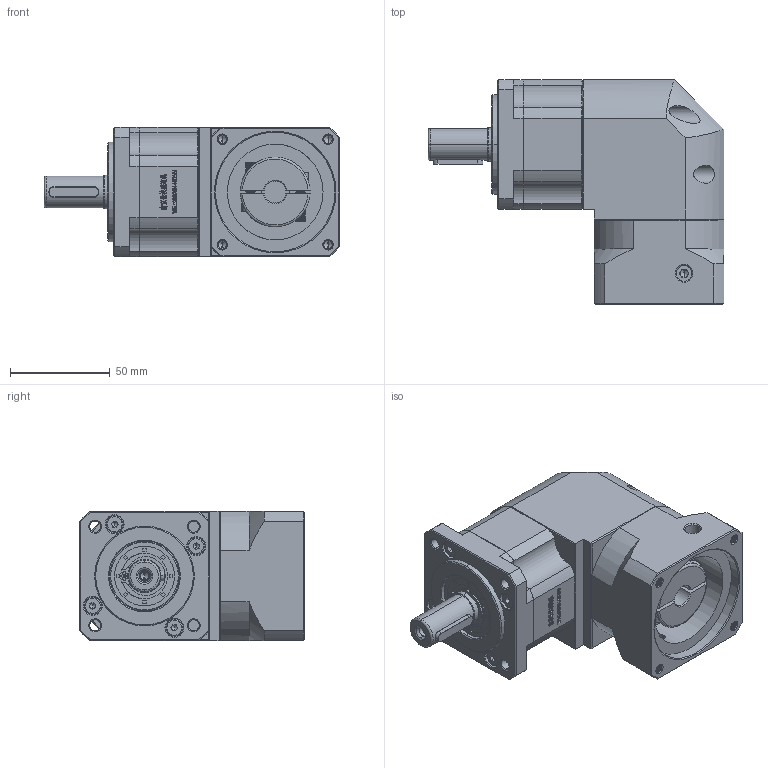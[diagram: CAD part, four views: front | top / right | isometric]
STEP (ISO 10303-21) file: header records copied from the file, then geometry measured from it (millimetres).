
FILE_DESCRIPTION (( 'STEP AP214' ), '1' );
FILE_NAME ('ZBR60-D16-L1-11-60-75-M5.STEP', '2022-04-19T08:49:12', ( '' ), ( 'Microsoft' ), 'SwSTEP 2.0', 'SolidWorks 2016', '' );
FILE_SCHEMA (( 'AUTOMOTIVE_DESIGN' ));
Length unit declared in the file: millimetre
Products named in the file (1): ZBR60-D16-L1-11-60-75-M5
Bounding box: 148.5 x 112.7 x 65 mm (x, y, z)
Volume: 542453.9 mm3; surface area: 79293.8 mm2
Topology: 5 solids, 5 shells, 2843 faces, 7685 edges, 4978 vertices
Faces by surface type: plane 1472, bspline 591, cylinder 432, cone 328, torus 20
Entity records: 155351 total; most frequent: CARTESIAN_POINT 57043, ORIENTED_EDGE 15310, DIRECTION 11619, EDGE_CURVE 7655, VECTOR 5059, LINE 5059, VERTEX_POINT 4978, AXIS2_PLACEMENT_3D 3280
